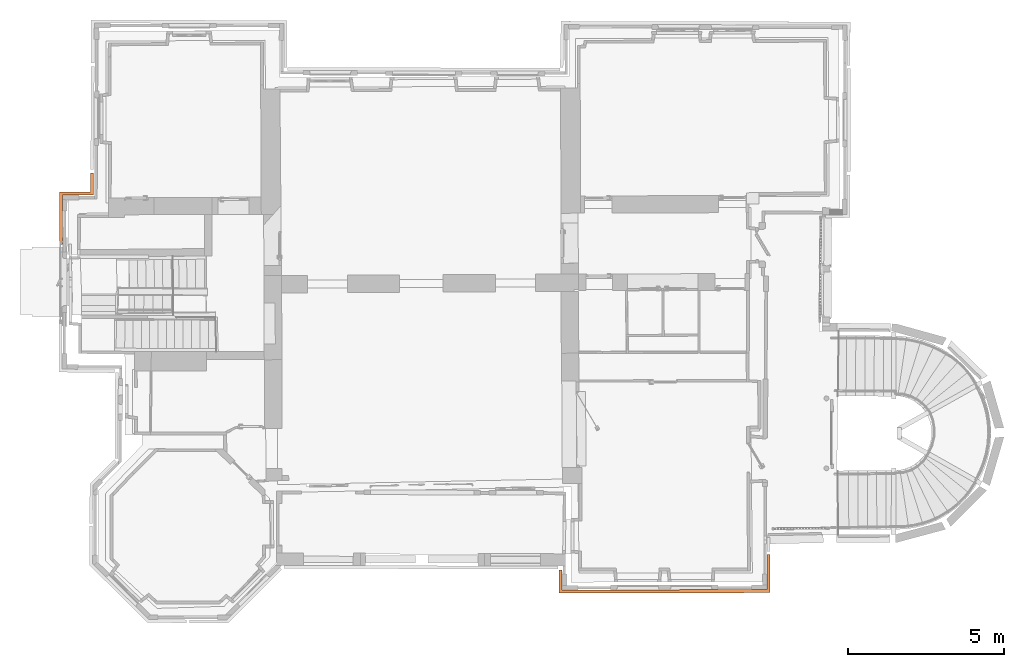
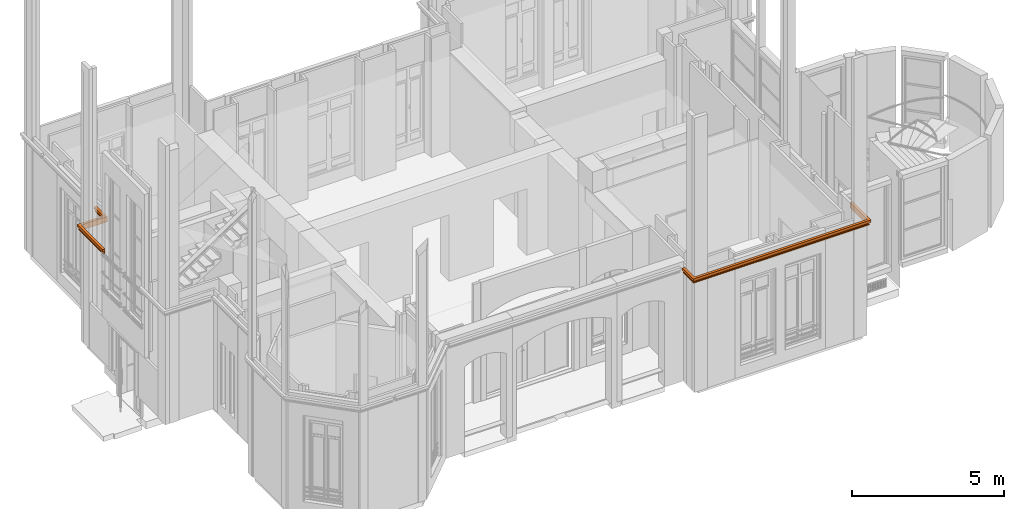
# One storey, part 95 of 97: 2 proxies.
"""IFC2X3 building model written with IfcOpenShell, lengths in centimetres."""

from ifc_helpers import new_model, entity, si_unit, converted_unit, direction, origin, origin_with_axes, place, context, subcontext, project, spatial, faceted_brep, material, type_object, element, save


model = new_model("IFC2X3")

# Units and contexts
model_context = context("Model", 3, precision=0.0001, world=origin(), true_north=direction((0.225632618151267, 0.974212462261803, 0.0)))
body_context = subcontext(model_context, "Body", "Model", "MODEL_VIEW")
ifc_project = project(units=[si_unit("LENGTHUNIT", "METRE", prefix="CENTI"), si_unit("AREAUNIT", "SQUARE_METRE", prefix="CENTI"), si_unit("VOLUMEUNIT", "CUBIC_METRE", prefix="CENTI"), converted_unit("PLANEANGLEUNIT", "DEGREE", entity("IfcRatioMeasure", 0.0174532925), si_unit("PLANEANGLEUNIT", "RADIAN"), dimensions=[0, 0, 0, 0, 0, 0, 0])], contexts=[model_context])

# Site, building, storey
site_placement = place(None, origin_with_axes())
site = spatial("IfcSite", under=ifc_project, at=site_placement, Name="Default Site", CompositionType="ELEMENT")
building_placement = place(site_placement, origin_with_axes())
building = spatial("IfcBuilding", under=site, at=building_placement, Name="Default Building", CompositionType="ELEMENT")
storey_placement = place(building_placement, origin_with_axes())
storey = spatial("IfcBuildingStorey", under=building, at=storey_placement, Name="Rez-de-chaussée", CompositionType="ELEMENT", Elevation=0.0)

# Proxies
ifc_material = material(Name="Aluminium mat")
building_element_proxy_type = type_object("IfcBuildingElementProxyType", Name="Corniche niv1", PredefinedType="NOTDEFINED", material=ifc_material)
proxy_1_placement = place(storey_placement, origin_with_axes())
element("IfcBuildingElementProxy", 1, at=proxy_1_placement, inside=storey, type_object=building_element_proxy_type, material=ifc_material, Name="Extrusion (solide) 954633", context=body_context, shape_type="Brep", body=[
    faceted_brep([(894.890117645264, -1048.74534606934, 463.639688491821), (904.872894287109, -1058.71305465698, 463.639688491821), (904.915618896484, -935.872268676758, 463.639688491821), (894.9294090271, -935.868835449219, 463.639688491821), (904.872894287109, -1058.71305465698, 453.639698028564), (904.915593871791, -935.872268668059, 453.639698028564), (904.915593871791, -935.872268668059, 463.639688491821), (897.889137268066, -1051.73978805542, 453.639698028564), (897.929382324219, -935.869884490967, 453.639698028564), (904.915618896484, -935.872268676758, 453.639698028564), (897.889137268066, -1051.73978805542, 446.339702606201), (897.92941376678, -935.869884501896, 446.339702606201), (897.92941376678, -935.869884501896, 453.639698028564), (900.356674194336, -1054.20370101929, 446.339702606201), (900.397872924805, -935.870742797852, 446.339702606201), (897.929382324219, -935.869884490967, 446.339702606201), (900.713063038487, -1054.559516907, 446.115256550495), (900.754346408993, -935.870838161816, 446.115239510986), (900.39785416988, -935.870742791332, 446.339672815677), (900.713062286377, -1054.55951690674, 446.115255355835), (901.022516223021, -1054.8685073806, 445.829567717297), (901.063893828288, -935.870933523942, 445.829554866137), (900.754339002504, -935.870838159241, 446.11523652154), (901.022529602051, -1054.86850738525, 445.829582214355), (901.274690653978, -1055.12027740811, 445.492227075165), (901.316153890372, -935.871028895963, 445.492210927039), (901.063902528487, -935.870933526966, 445.829569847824), (901.274681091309, -1055.12027740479, 445.492219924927), (901.461098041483, -1055.30633925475, 445.114504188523), (901.502607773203, -935.871124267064, 445.11451648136), (901.316138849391, -935.871028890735, 445.492206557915), (901.461124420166, -1055.30633926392, 445.114517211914), (901.575522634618, -1055.42058946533, 444.709172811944), (901.61707997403, -935.871124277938, 444.709166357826), (901.502637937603, -935.871124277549, 445.114525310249), (901.575469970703, -1055.42058944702, 444.709157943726), (901.61403958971, -1055.45911787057, 444.289679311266), (901.655607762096, -935.871219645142, 444.289686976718), (901.617025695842, -935.871124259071, 444.709155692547), (901.614093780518, -1055.4591178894, 444.289684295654), (901.575524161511, -1055.42058946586, 443.870205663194), (901.617079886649, -935.871124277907, 443.870207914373), (901.655661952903, -935.871219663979, 444.289676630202), (901.575469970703, -1055.42058944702, 443.870210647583), (901.461071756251, -1055.30633924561, 443.464866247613), (901.502585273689, -935.871124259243, 443.464858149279), (901.617027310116, -935.871124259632, 443.870217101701), (901.461124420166, -1055.30633926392, 443.464851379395), (901.274707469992, -1055.12027741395, 443.087135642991), (901.316165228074, -935.871028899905, 443.087149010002), (901.502634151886, -935.871124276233, 443.464839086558), (901.274681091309, -1055.12027740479, 443.087148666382), (901.022520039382, -1054.86850738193, 442.749793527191), (901.063892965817, -935.870933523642, 442.749805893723), (901.316144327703, -935.87102889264, 443.087164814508), (901.022529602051, -1054.86850738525, 442.749786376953), (900.713075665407, -1054.55951691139, 442.464098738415), (900.754352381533, -935.870838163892, 442.46411757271), (901.063907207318, -935.870933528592, 442.749799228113), (900.713062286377, -1054.55951690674, 442.464113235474), (900.356673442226, -1054.20370101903, 442.239667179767), (900.39785341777, -935.870742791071, 442.239696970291), (900.754345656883, -935.870838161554, 442.464130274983), (900.356674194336, -1054.20370101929, 442.239665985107), (894.890117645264, -1048.74534606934, 442.239665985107), (894.9294090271, -935.868835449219, 442.239665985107), (900.397872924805, -935.870742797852, 442.239665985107), (894.929353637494, -935.868835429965, 463.639688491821), (894.929353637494, -935.868835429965, 442.239665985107), (238.890624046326, -1049.96137619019, 463.639688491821), (228.945398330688, -1059.96599197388, 463.639688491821), (228.945398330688, -1059.96599197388, 453.639698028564), (904.872894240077, -1058.71302928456, 453.639698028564), (904.872894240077, -1058.71302928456, 463.639688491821), (235.902953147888, -1052.96688079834, 453.639698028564), (235.902953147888, -1052.96688079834, 446.339702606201), (897.889137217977, -1051.73976103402, 446.339702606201), (897.889137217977, -1051.73976103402, 453.639698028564), (233.444595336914, -1055.43994903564, 446.339702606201), (233.08959008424, -1055.79710632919, 446.115265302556), (900.713062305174, -1054.55952704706, 446.115271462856), (900.356674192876, -1054.20370023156, 446.339701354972), (233.089590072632, -1055.79710006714, 446.115255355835), (232.781291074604, -1056.1071755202, 445.829621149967), (901.022529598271, -1054.86850534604, 445.829580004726), (900.713062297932, -1054.55952314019, 446.115262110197), (232.781291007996, -1056.1071395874, 445.829582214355), (232.530093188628, -1056.35986089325, 445.492218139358), (901.274681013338, -1055.12023534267, 445.492188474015), (901.022529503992, -1054.86845448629, 445.829542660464), (232.530093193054, -1056.35986328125, 445.492219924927), (232.344388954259, -1056.54668401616, 445.114515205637), (901.461124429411, -1055.30634425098, 445.114519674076), (901.27468099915, -1055.12022768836, 445.492195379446), (232.344388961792, -1056.54668807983, 445.114517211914), (232.230400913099, -1056.66134711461, 444.709138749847), (901.575469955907, -1055.42058146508, 444.70915569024), (901.461124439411, -1055.30634964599, 445.114520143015), (232.230401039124, -1056.6614151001, 444.709157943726), (232.19196801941, -1056.70006870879, 444.289687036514), (901.614093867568, -1055.45916484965, 444.289688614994), (901.575470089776, -1055.42065368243, 444.709163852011), (232.191967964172, -1056.70003890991, 444.289684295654), (232.230400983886, -1056.66138530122, 443.870213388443), (901.575470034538, -1055.42062388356, 443.870207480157), (901.614093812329, -1055.45913505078, 444.289682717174), (232.230401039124, -1056.6614151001, 443.870210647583), (232.344389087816, -1056.54675606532, 443.464832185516), (901.461124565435, -1055.30641763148, 443.464829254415), (901.575470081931, -1055.42064945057, 443.87019370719), (232.344388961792, -1056.54668807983, 443.464851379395), (232.530093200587, -1056.35986734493, 443.087146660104), (901.274681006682, -1055.12023175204, 443.087171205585), (901.461124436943, -1055.30634831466, 443.464846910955), (232.530093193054, -1056.35986328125, 443.087148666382), (232.781291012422, -1056.1071419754, 442.749784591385), (901.022529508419, -1054.86845687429, 442.749824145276), (901.274681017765, -1055.12023773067, 443.087178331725), (232.781291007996, -1056.1071395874, 442.749786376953), (233.089590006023, -1055.79706413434, 442.464152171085), (900.713062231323, -1054.55948720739, 442.464145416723), (901.022529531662, -1054.86846941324, 442.749827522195), (233.089590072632, -1055.79710006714, 442.464113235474), (233.444595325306, -1055.4399427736, 442.239675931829), (900.356674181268, -1054.20369396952, 442.239677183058), (900.713062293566, -1054.55952078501, 442.464107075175), (233.444595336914, -1055.43994903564, 442.239665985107), (238.890624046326, -1049.96137619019, 442.239665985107), (894.890117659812, -1048.74535391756, 463.639688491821), (894.890117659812, -1048.74535391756, 442.239665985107), (238.63000869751, -986.470031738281, 463.639688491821), (228.643870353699, -986.511039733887, 463.639688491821), (228.643870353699, -986.511039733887, 453.639698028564), (228.945400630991, -1059.96599196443, 453.639698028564), (228.945400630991, -1059.96599196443, 463.639688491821), (235.630035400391, -986.482334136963, 453.639698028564), (235.630035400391, -986.482334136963, 446.339702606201), (235.902952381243, -1052.96688080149, 446.339702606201), (235.902952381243, -1052.96688080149, 453.639698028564), (233.161568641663, -986.492443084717, 446.339702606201), (232.805077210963, -986.493873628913, 446.115268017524), (233.089577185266, -1055.79710012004, 446.115275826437), (233.444595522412, -1055.43994903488, 446.339702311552), (232.80508518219, -986.493873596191, 446.115255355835), (232.495544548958, -986.49520874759, 445.829584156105), (232.781293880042, -1056.10713957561, 445.829579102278), (233.089582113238, -1055.79710009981, 446.115263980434), (232.495546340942, -986.495208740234, 445.829582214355), (232.243296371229, -986.496257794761, 445.492222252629), (232.530086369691, -1056.35986330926, 445.492225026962), (232.78129751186, -1056.1071395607, 445.829577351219), (232.243299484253, -986.496257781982, 445.492219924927), (232.056827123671, -986.49702074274, 445.114519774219), (232.344379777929, -1056.54668811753, 445.114521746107), (232.530088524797, -1056.35986330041, 445.492222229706), (232.056832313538, -986.497020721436, 445.114517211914), (231.942389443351, -986.497497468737, 444.709151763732), (232.230411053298, -1056.66141505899, 444.709155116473), (232.34438435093, -1056.54668809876, 445.114518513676), (231.942367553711, -986.497497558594, 444.709157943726), (231.903785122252, -986.497592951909, 444.289684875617), (232.191963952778, -1056.70003892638, 444.289684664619), (232.230388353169, -1056.66141515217, 444.70915911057), (231.903791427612, -986.497592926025, 444.289684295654), (231.942373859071, -986.49749753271, 443.870211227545), (232.23039465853, -1056.66141512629, 443.870210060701), (232.191970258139, -1056.7000389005, 444.289684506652), (231.942367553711, -986.497497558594, 443.870210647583), (232.056810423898, -986.497020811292, 443.464845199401), (232.344362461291, -1056.54668818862, 443.464843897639), (232.230389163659, -1056.66141514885, 443.870207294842), (232.056832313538, -986.497020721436, 443.464851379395), (232.243304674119, -986.496257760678, 443.087151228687), (232.530093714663, -1056.35986327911, 443.087148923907), (232.344384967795, -1056.54668809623, 443.464849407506), (232.243299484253, -986.496257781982, 443.087148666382), (232.495549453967, -986.495208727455, 442.749788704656), (232.781300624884, -1056.10713954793, 442.749793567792), (232.530089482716, -1056.35986329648, 443.087145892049), (232.495546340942, -986.495208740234, 442.749786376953), (232.805086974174, -986.493873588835, 442.464115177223), (233.089583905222, -1055.79710009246, 442.464106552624), (232.781295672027, -1056.10713956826, 442.74979143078), (232.80508518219, -986.493873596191, 442.464113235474), (233.16157661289, -986.492443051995, 442.239678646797), (233.444603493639, -1055.43994900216, 442.239678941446), (233.089585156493, -1055.79710008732, 442.464105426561), (233.161568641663, -986.492443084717, 442.239665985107), (238.63000869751, -986.470031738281, 442.239665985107), (238.890638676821, -1049.96137613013, 463.639688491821), (238.890638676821, -1049.96137613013, 442.239665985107), (904.915618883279, -935.872306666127, 463.639688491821), (904.915618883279, -935.872306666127, 453.639698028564), (897.929382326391, -935.86987824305, 453.639698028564), (897.929382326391, -935.86987824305, 446.339702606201), (900.397872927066, -935.870736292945, 446.339702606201), (900.754356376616, -935.870860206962, 446.115255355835), (901.063919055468, -935.87096781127, 445.829582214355), (901.316165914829, -935.87105549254, 445.492219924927), (901.502609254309, -935.871120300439, 445.114517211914), (901.61705015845, -935.871160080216, 444.709157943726), (901.655578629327, -935.871173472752, 444.289684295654), (901.61705015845, -935.871160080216, 443.870210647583), (901.502609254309, -935.871120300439, 443.464851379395), (901.316165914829, -935.87105549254, 443.087148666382), (901.063919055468, -935.87096781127, 442.749786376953), (900.754356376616, -935.870860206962, 442.464113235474), (900.397872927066, -935.870736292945, 442.239665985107), (233.161568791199, -986.49247951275, 442.239665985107), (232.805085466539, -986.493942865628, 442.464113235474), (232.495546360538, -986.495213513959, 442.749786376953), (232.24329944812, -986.496248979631, 443.087148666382), (232.056832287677, -986.497014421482, 443.464851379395), (231.942367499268, -986.497484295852, 443.870210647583), (231.903791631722, -986.497642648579, 444.289684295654), (231.942367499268, -986.497484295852, 444.709157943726), (232.056832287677, -986.497014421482, 445.114517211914), (232.24329944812, -986.496248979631, 445.492219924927), (232.495546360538, -986.495213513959, 445.829582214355), (232.805085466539, -986.493942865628, 446.115255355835), (233.161568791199, -986.49247951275, 446.339702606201), (235.630035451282, -986.482346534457, 446.339702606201), (235.630035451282, -986.482346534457, 453.639698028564), (228.643870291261, -986.511024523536, 453.639698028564), (228.643870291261, -986.511024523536, 463.639688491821)], [[[0, 1, 2, 3]], [[1, 4, 5, 6]], [[4, 7, 8, 9]], [[7, 10, 11, 12]], [[10, 13, 14, 15]], [[13, 16, 17, 18]], [[19, 20, 21, 22]], [[23, 24, 25, 26]], [[27, 28, 29, 30]], [[31, 32, 33, 34]], [[35, 36, 37, 38]], [[39, 40, 41, 42]], [[43, 44, 45, 46]], [[47, 48, 49, 50]], [[51, 52, 53, 54]], [[55, 56, 57, 58]], [[59, 60, 61, 62]], [[63, 64, 65, 66]], [[64, 0, 67, 68]], [[69, 70, 1, 0]], [[70, 71, 72, 73]], [[71, 74, 7, 4]], [[74, 75, 76, 77]], [[75, 78, 13, 10]], [[78, 79, 80, 81]], [[82, 83, 84, 85]], [[86, 87, 88, 89]], [[90, 91, 92, 93]], [[94, 95, 96, 97]], [[98, 99, 100, 101]], [[102, 103, 104, 105]], [[106, 107, 108, 109]], [[110, 111, 112, 113]], [[114, 115, 116, 117]], [[118, 119, 120, 121]], [[122, 123, 124, 125]], [[126, 127, 64, 63]], [[127, 69, 128, 129]], [[130, 131, 70, 69]], [[131, 132, 133, 134]], [[132, 135, 74, 71]], [[135, 136, 137, 138]], [[136, 139, 78, 75]], [[139, 140, 141, 142]], [[143, 144, 145, 146]], [[147, 148, 149, 150]], [[151, 152, 153, 154]], [[155, 156, 157, 158]], [[159, 160, 161, 162]], [[163, 164, 165, 166]], [[167, 168, 169, 170]], [[171, 172, 173, 174]], [[175, 176, 177, 178]], [[179, 180, 181, 182]], [[183, 184, 185, 186]], [[187, 188, 127, 126]], [[188, 130, 189, 190]], [[3, 191, 192, 193, 194, 195, 196, 197, 198, 199, 200, 201, 202, 203, 204, 205, 206, 207, 65]], [[188, 208, 209, 210, 211, 212, 213, 214, 215, 216, 217, 218, 219, 220, 221, 222, 223, 224, 130]]]),
])
proxy_2_placement = place(storey_placement, origin_with_axes())
element("IfcBuildingElementProxy", 2, at=proxy_2_placement, inside=storey, type_object=building_element_proxy_type, material=ifc_material, Name="Extrusion (solide) 956343", context=body_context, shape_type="Brep", body=[
    faceted_brep([(-1360.27984619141, 214.327478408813, 464.400005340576), (-1370.24993896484, 224.329686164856, 464.400005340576), (-1370.52135467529, 56.1583876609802, 464.400005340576), (-1360.53514480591, 56.142270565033, 464.400005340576), (-1370.25002004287, 224.279451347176, 454.400014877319), (-1370.52136418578, 56.15838767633, 454.400014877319), (-1370.52136418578, 56.15838767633, 464.400005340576), (-1370.25003433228, 224.279451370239, 454.400014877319), (-1363.27505111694, 217.282056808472, 454.400014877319), (-1363.53511810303, 56.1471164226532, 454.400014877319), (-1370.52135467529, 56.1583876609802, 454.400014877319), (-1363.27511029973, 217.245387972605, 447.100019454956), (-1363.53511979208, 56.1471164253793, 447.100019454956), (-1363.53511979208, 56.1471164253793, 454.400014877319), (-1363.27514648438, 217.245388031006, 447.100019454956), (-1365.73963165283, 219.717836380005, 447.100019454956), (-1366.00360870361, 56.1510980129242, 447.100019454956), (-1363.53511810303, 56.1471164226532, 447.100019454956), (-1366.09555118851, 220.073747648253, 446.875585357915), (-1366.36010549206, 56.1516761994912, 446.875593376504), (-1366.0036133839, 56.1510980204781, 447.100026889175), (-1366.09554290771, 220.073747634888, 446.87557220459), (-1366.4045598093, 220.382356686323, 446.589927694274), (-1366.6696549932, 56.1521768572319, 446.589899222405), (-1366.36010034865, 56.1516761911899, 446.875581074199), (-1366.40453338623, 220.382356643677, 446.58989906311), (-1366.65638837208, 220.633316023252, 446.252528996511), (-1366.92186935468, 56.1525821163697, 446.25251258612), (-1366.66961819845, 56.1521767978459, 446.589871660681), (-1366.65639877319, 220.633316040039, 446.252536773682), (-1366.84257194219, 220.818185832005, 445.874841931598), (-1367.1083429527, 56.1528801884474, 445.874833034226), (-1366.92187419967, 56.1525821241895, 446.252523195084), (-1366.84255599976, 220.818185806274, 445.874834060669), (-1366.95682280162, 220.930790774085, 445.469452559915), (-1367.22276615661, 56.1530649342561, 445.469469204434), (-1367.1083242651, 56.152880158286, 445.874828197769), (-1366.95690155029, 220.930790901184, 445.46947479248), (-1366.99542443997, 220.967316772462, 445.050009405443), (-1367.26143193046, 56.1531305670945, 445.050003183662), (-1367.22284908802, 56.1530650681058, 445.469480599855), (-1366.99533462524, 220.967316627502, 445.050001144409), (-1366.95681848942, 220.926570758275, 444.630535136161), (-1367.2227592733, 56.1530649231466, 444.630529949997), (-1367.26134211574, 56.1531304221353, 445.05000736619), (-1366.95690155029, 220.926570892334, 444.630527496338), (-1366.84264084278, 220.809888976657, 444.225144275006), (-1367.10839670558, 56.1528802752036, 444.225153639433), (-1367.22283859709, 56.1530650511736, 444.630512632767), (-1366.84255599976, 220.809888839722, 444.225168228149), (-1366.65638775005, 220.621228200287, 443.847470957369), (-1366.92184749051, 56.1525820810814, 443.847492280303), (-1367.10831624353, 56.1528801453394, 444.225182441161), (-1366.65639877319, 220.621228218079, 443.847465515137), (-1366.40458149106, 220.366883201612, 443.51013856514), (-1366.66961608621, 56.1521767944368, 443.510132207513), (-1366.92186724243, 56.1525821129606, 443.847491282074), (-1366.40462875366, 220.366883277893, 443.510103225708), (-1366.0955624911, 220.055389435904, 443.22440886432), (-1366.36010630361, 56.151676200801, 443.224414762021), (-1366.66966094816, 56.1521768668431, 443.510096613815), (-1366.09554290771, 220.055389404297, 443.224430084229), (-1365.73962439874, 219.697237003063, 442.999994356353), (-1366.00359669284, 56.151097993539, 443.000001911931), (-1366.360088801, 56.1516761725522, 443.224435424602), (-1365.73963165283, 219.697237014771, 442.999982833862), (-1360.28003692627, 214.219999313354, 442.999982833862), (-1360.53514480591, 56.142270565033, 442.999982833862), (-1366.00360870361, 56.1510980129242, 442.999982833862), (-1360.27986345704, 214.32747843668, 464.400005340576), (-1360.53517132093, 56.1422706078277, 464.400005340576), (-1360.53517132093, 56.1422706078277, 442.999982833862), (-1260.73722839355, 214.166831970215, 463.899993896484), (-1270.70732116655, 224.169015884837, 463.899993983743), (-1370.24993902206, 224.329686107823, 464.399993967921), (-1360.27984624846, 214.327478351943, 464.399994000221), (-1270.70732116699, 224.169015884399, 463.899993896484), (-1270.70741656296, 224.118786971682, 453.900003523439), (-1370.2500343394, 224.279446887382, 454.400014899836), (-1370.24993898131, 224.329675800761, 464.400005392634), (-1270.70741653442, 224.118804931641, 453.900003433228), (-1263.73243332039, 217.121410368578, 453.900003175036), (-1363.2750511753, 217.282056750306, 454.400003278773), (-1370.25003438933, 224.279451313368, 454.400003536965), (-1263.73243331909, 217.121410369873, 453.900003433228), (-1263.73252868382, 217.084743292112, 446.600008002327), (-1363.27514646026, 217.245403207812, 447.100019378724), (-1363.27505109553, 217.282070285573, 454.400014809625), (-1263.73252868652, 217.084741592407, 446.600008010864), (-1266.19701385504, 219.557166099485, 446.600007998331), (-1365.73963171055, 219.717836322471, 447.100007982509), (-1363.27514654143, 217.245387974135, 447.100008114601), (-1266.19701385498, 219.557166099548, 446.600008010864), (-1266.55292498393, 219.913090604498, 446.375581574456), (-1366.09554285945, 220.0737527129, 446.87558018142), (-1365.7396317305, 219.717828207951, 447.100006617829), (-1266.55292510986, 219.913077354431, 446.375560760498), (-1266.86191559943, 220.221684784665, 446.0898859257), (-1366.4045334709, 220.382344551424, 446.589886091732), (-1366.09554298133, 220.073737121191, 446.875560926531), (-1266.86191558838, 220.22168636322, 446.089887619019), (-1267.11378108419, 220.472625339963, 445.752557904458), (-1366.65639882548, 220.633306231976, 446.252529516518), (-1366.4045334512, 220.382344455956, 446.589890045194), (-1267.11378097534, 220.472645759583, 445.752573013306), (-1267.29993810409, 220.657539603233, 445.374834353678), (-1366.84255595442, 220.818196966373, 445.874839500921), (-1366.65639874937, 220.633321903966, 446.25253963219), (-1267.2999382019, 220.657515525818, 445.374822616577), (-1267.41428379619, 220.770106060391, 444.969459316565), (-1366.95690163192, 220.930763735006, 445.469467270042), (-1366.84255603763, 220.818173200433, 445.874830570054), (-1267.41428375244, 220.770120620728, 444.969463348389), (-1267.45281217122, 220.806657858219, 444.549990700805), (-1366.99533462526, 220.96731661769, 445.050001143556), (-1366.95690157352, 220.930779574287, 445.469473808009), (-1267.45281219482, 220.806646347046, 444.549989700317), (-1267.41428375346, 220.765899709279, 444.130563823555), (-1366.95690156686, 220.926556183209, 444.630528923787), (-1366.99533463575, 220.967307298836, 445.050002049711), (-1267.41428375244, 220.765900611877, 444.130563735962), (-1267.30003357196, 220.649226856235, 443.725161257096), (-1366.84255599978, 220.80988870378, 444.225168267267), (-1366.95690155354, 220.926551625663, 444.630533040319), (-1267.30003356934, 220.649242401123, 443.725156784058), (-1267.11378098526, 220.460568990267, 443.34744854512), (-1366.65639877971, 220.62123548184, 443.847461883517), (-1366.84255601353, 220.809904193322, 444.225160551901), (-1267.11378097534, 220.460557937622, 443.347454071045), (-1266.86201094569, 220.206208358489, 443.010095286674), (-1366.40462874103, 220.366877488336, 443.510107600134), (-1366.65639877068, 220.621227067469, 443.847466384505), (-1266.86201095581, 220.206212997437, 443.010091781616), (-1266.55292509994, 219.894740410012, 442.724421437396), (-1366.0955429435, 220.055398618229, 443.22441999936), (-1366.40462875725, 220.36688420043, 443.510102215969), (-1266.55292510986, 219.894742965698, 442.724418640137), (-1266.19701392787, 219.536578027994, 442.500000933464), (-1365.73963160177, 219.69722910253, 442.999995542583), (-1366.09554296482, 220.055398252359, 443.224415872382), (-1266.19701385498, 219.536566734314, 442.500019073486), (-1260.73741912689, 214.059329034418, 442.500019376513), (-1360.28003674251, 214.219999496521, 443.000019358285), (-1365.7396314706, 219.697237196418, 443.000019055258), (-1260.73741912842, 214.059329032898, 442.500019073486), (-1260.73722841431, 214.166818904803, 463.899993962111), (-1360.27984619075, 214.327478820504, 464.400005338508), (-1360.28003694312, 214.219988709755, 442.999982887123), (-1260.62345504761, 284.637379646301, 463.899993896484), (-1270.60966491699, 284.653496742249, 463.899993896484), (-1270.60966491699, 284.653496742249, 453.900003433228), (-1270.7073667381, 224.11880485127, 453.900003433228), (-1270.70728569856, 224.169015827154, 463.899993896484), (-1263.62352371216, 284.642243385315, 453.900003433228), (-1263.62352371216, 284.642243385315, 446.600008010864), (-1263.73256021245, 217.084741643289, 446.600008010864), (-1263.73250102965, 217.121410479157, 453.900003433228), (-1266.09191894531, 284.646224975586, 446.600008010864), (-1266.44841105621, 284.646797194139, 446.375574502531), (-1266.55292134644, 219.913077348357, 446.375554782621), (-1266.19700181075, 219.557166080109, 446.599988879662), (-1266.44840240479, 284.646797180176, 446.375560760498), (-1266.75795704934, 284.647297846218, 446.089878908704), (-1266.86192189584, 220.2216863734, 446.089894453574), (-1266.55290499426, 219.913077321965, 446.37553896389), (-1266.75796508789, 284.647297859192, 446.089887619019), (-1267.01019337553, 284.647703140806, 445.752559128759), (-1267.11376770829, 220.47264573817, 445.752563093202), (-1266.86193559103, 220.221686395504, 446.089902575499), (-1267.01021194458, 284.647703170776, 445.752573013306), (-1267.19669964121, 284.64798934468, 445.374844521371), (-1267.29997972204, 220.657515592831, 445.374843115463), (-1267.11378762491, 220.472645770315, 445.752576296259), (-1267.19665527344, 284.647989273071, 445.374822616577), (-1267.31110419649, 284.648179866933, 444.969438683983), (-1267.41420172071, 220.77012048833, 444.96944018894), (-1267.29993491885, 220.657515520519, 445.374821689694), (-1267.31119155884, 284.648180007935, 444.969463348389), (-1267.34977359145, 284.648251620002, 444.549994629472), (-1267.45281315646, 220.806646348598, 444.549989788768), (-1267.41428946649, 220.77012062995, 444.969463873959), (-1267.34972000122, 284.648251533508, 444.549989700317), (-1267.31114231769, 284.64817992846, 444.130568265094), (-1267.4142469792, 220.765900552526, 444.130567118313), (-1267.45275956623, 220.806646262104, 444.549994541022), (-1267.31119155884, 284.648180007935, 444.130563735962), (-1267.19673016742, 284.647989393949, 443.725135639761), (-1267.30002922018, 220.649242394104, 443.725158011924), (-1267.41429539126, 220.765900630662, 444.130560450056), (-1267.19665527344, 284.647989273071, 443.725156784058), (-1267.01018650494, 284.647703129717, 443.347466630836), (-1267.11377787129, 220.460557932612, 443.347455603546), (-1267.29996478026, 220.649242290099, 443.72519074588), (-1267.01021194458, 284.647703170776, 443.347454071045), (-1266.75796078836, 284.647297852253, 443.010094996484), (-1266.86198150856, 220.206212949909, 443.010113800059), (-1267.1137987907, 220.460557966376, 443.347440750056), (-1266.75796508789, 284.647297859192, 443.010091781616), (-1266.44841044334, 284.64679719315, 442.724409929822), (-1266.55292664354, 219.894742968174, 442.724416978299), (-1266.8619929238, 220.206212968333, 443.010111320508), (-1266.44840240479, 284.646797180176, 442.724418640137), (-1266.09193179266, 284.646224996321, 442.499998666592), (-1266.19702409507, 219.536566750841, 442.500002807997), (-1266.55292109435, 219.894742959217, 442.724425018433), (-1266.09191894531, 284.646224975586, 442.500019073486), (-1260.62345504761, 284.637379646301, 442.500019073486), (-1260.73719314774, 214.166831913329, 463.899993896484), (-1260.73736665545, 214.059328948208, 442.500019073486), (-1370.52135467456, 56.1583881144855, 464.400005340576), (-1370.52135467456, 56.1583881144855, 454.400014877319), (-1363.53511810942, 56.1471124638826, 454.400014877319), (-1363.53511810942, 56.1471124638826, 447.100019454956), (-1366.00360870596, 56.1510965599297, 447.100019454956), (-1366.36009216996, 56.1516719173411, 446.87557220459), (-1366.66965485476, 56.1521715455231, 446.58989906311), (-1366.92190170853, 56.152578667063, 446.252536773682), (-1367.10834503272, 56.1528795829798, 445.874834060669), (-1367.2227859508, 56.1530642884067, 445.46947479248), (-1367.26140976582, 56.1531266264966, 445.050001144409), (-1367.2227859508, 56.1530642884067, 444.630527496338), (-1367.10834503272, 56.1528795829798, 444.225168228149), (-1366.92190170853, 56.152578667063, 443.847465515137), (-1366.66965485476, 56.1521715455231, 443.510103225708), (-1366.36009216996, 56.1516719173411, 443.224430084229), (-1366.00360870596, 56.1510965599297, 442.999982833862), (-1266.09191897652, 284.646205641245, 442.500019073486), (-1266.4484024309, 284.646780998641, 442.724418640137), (-1266.7579651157, 284.647280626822, 443.010091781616), (-1267.01021196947, 284.647687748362, 443.347454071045), (-1267.19665527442, 284.647988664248, 443.725156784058), (-1267.3111915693, 284.648173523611, 444.130563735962), (-1267.34972002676, 284.648235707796, 444.549989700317), (-1267.3111915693, 284.648173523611, 444.969463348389), (-1267.19665527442, 284.647988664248, 445.374822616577), (-1267.01021196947, 284.647687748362, 445.752573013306), (-1266.7579651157, 284.647280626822, 446.089887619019), (-1266.4484024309, 284.646780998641, 446.375560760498), (-1266.09191897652, 284.646205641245, 446.600008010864), (-1263.62352374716, 284.642221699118, 446.600008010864), (-1263.62352374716, 284.642221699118, 453.900003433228), (-1270.60966491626, 284.653497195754, 453.900003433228), (-1270.60966491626, 284.653497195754, 463.899993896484)], [[[0, 1, 2, 3]], [[1, 4, 5, 6]], [[7, 8, 9, 10]], [[8, 11, 12, 13]], [[14, 15, 16, 17]], [[15, 18, 19, 20]], [[21, 22, 23, 24]], [[25, 26, 27, 28]], [[29, 30, 31, 32]], [[33, 34, 35, 36]], [[37, 38, 39, 40]], [[41, 42, 43, 44]], [[45, 46, 47, 48]], [[49, 50, 51, 52]], [[53, 54, 55, 56]], [[57, 58, 59, 60]], [[61, 62, 63, 64]], [[65, 66, 67, 68]], [[66, 69, 70, 71]], [[72, 73, 74, 75]], [[76, 77, 78, 79]], [[80, 81, 82, 83]], [[84, 85, 86, 87]], [[88, 89, 90, 91]], [[92, 93, 94, 95]], [[96, 97, 98, 99]], [[100, 101, 102, 103]], [[104, 105, 106, 107]], [[108, 109, 110, 111]], [[112, 113, 114, 115]], [[116, 117, 118, 119]], [[120, 121, 122, 123]], [[124, 125, 126, 127]], [[128, 129, 130, 131]], [[132, 133, 134, 135]], [[136, 137, 138, 139]], [[140, 141, 142, 143]], [[144, 145, 146, 147]], [[148, 149, 76, 72]], [[149, 150, 151, 152]], [[150, 153, 84, 80]], [[153, 154, 155, 156]], [[154, 157, 92, 88]], [[157, 158, 159, 160]], [[161, 162, 163, 164]], [[165, 166, 167, 168]], [[169, 170, 171, 172]], [[173, 174, 175, 176]], [[177, 178, 179, 180]], [[181, 182, 183, 184]], [[185, 186, 187, 188]], [[189, 190, 191, 192]], [[193, 194, 195, 196]], [[197, 198, 199, 200]], [[201, 202, 203, 204]], [[205, 206, 144, 140]], [[206, 148, 207, 208]], [[3, 209, 210, 211, 212, 213, 214, 215, 216, 217, 218, 219, 220, 221, 222, 223, 224, 225, 67]], [[206, 226, 227, 228, 229, 230, 231, 232, 233, 234, 235, 236, 237, 238, 239, 240, 241, 242, 148]]]),
])

save(model, "model.ifc")
